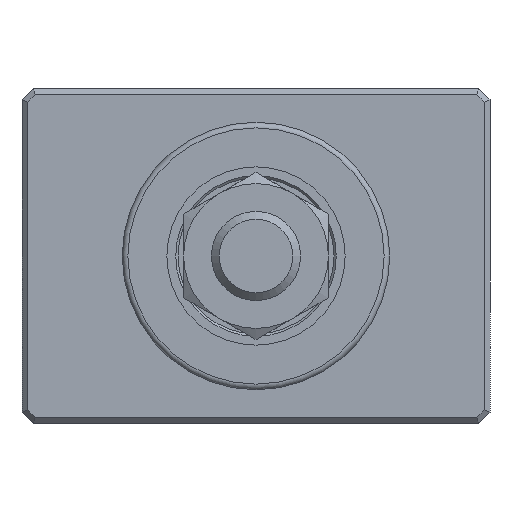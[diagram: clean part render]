
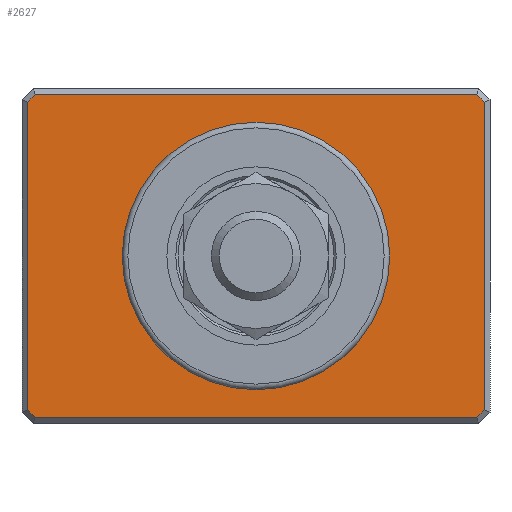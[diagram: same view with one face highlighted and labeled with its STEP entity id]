
A CAD part, front view. The second image highlights one B-rep face of the part: STEP entity #2627.
In plain terms, the highlighted planar face has unit normal (0, -1, 0).
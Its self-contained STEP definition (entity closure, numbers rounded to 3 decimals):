
#2351=CARTESIAN_POINT('',(19.793,-14.0,-14.5));
#2352=VERTEX_POINT('',#2351);
#2353=CARTESIAN_POINT('',(-19.793,-14.0,-14.5));
#2354=VERTEX_POINT('',#2353);
#2355=CARTESIAN_POINT('',(19.793,-14.0,-14.5));
#2356=DIRECTION('',(-1.0,0.0,0.0));
#2357=VECTOR('',#2356,39.586);
#2358=LINE('',#2355,#2357);
#2359=EDGE_CURVE('',#2352,#2354,#2358,.T.);
#2389=CARTESIAN_POINT('',(19.793,-14.0,14.5));
#2390=VERTEX_POINT('',#2389);
#2391=CARTESIAN_POINT('',(20.5,-14.0,13.793));
#2392=VERTEX_POINT('',#2391);
#2393=CARTESIAN_POINT('',(19.793,-14.0,14.5));
#2394=DIRECTION('',(0.707,0.0,-0.707));
#2395=VECTOR('',#2394,1.);
#2396=LINE('',#2393,#2395);
#2397=EDGE_CURVE('',#2390,#2392,#2396,.T.);
#2420=CARTESIAN_POINT('',(-20.5,-14.0,-13.793));
#2421=VERTEX_POINT('',#2420);
#2422=CARTESIAN_POINT('',(-19.793,-14.0,-14.5));
#2423=DIRECTION('',(-0.707,0.0,0.707));
#2424=VECTOR('',#2423,1.);
#2425=LINE('',#2422,#2424);
#2426=EDGE_CURVE('',#2354,#2421,#2425,.T.);
#2451=CARTESIAN_POINT('',(-19.793,-14.0,14.5));
#2452=VERTEX_POINT('',#2451);
#2453=CARTESIAN_POINT('',(-19.793,-14.0,14.5));
#2454=DIRECTION('',(1.0,0.0,0.0));
#2455=VECTOR('',#2454,39.586);
#2456=LINE('',#2453,#2455);
#2457=EDGE_CURVE('',#2452,#2390,#2456,.T.);
#2484=CARTESIAN_POINT('',(-20.5,-14.0,13.793));
#2485=VERTEX_POINT('',#2484);
#2486=CARTESIAN_POINT('',(-20.5,-14.0,-13.793));
#2487=DIRECTION('',(0.0,0.0,1.0));
#2488=VECTOR('',#2487,27.586);
#2489=LINE('',#2486,#2488);
#2490=EDGE_CURVE('',#2421,#2485,#2489,.T.);
#2506=CARTESIAN_POINT('',(-20.5,-14.0,13.793));
#2507=DIRECTION('',(0.707,0.0,0.707));
#2508=VECTOR('',#2507,1.);
#2509=LINE('',#2506,#2508);
#2510=EDGE_CURVE('',#2485,#2452,#2509,.T.);
#2530=CARTESIAN_POINT('',(20.5,-14.0,-13.793));
#2531=VERTEX_POINT('',#2530);
#2532=CARTESIAN_POINT('',(20.5,-14.0,13.793));
#2533=DIRECTION('',(0.0,0.0,-1.0));
#2534=VECTOR('',#2533,27.586);
#2535=LINE('',#2532,#2534);
#2536=EDGE_CURVE('',#2392,#2531,#2535,.T.);
#2552=CARTESIAN_POINT('',(20.5,-14.0,-13.793));
#2553=DIRECTION('',(-0.707,0.0,-0.707));
#2554=VECTOR('',#2553,1.);
#2555=LINE('',#2552,#2554);
#2556=EDGE_CURVE('',#2531,#2352,#2555,.T.);
#2601=CARTESIAN_POINT('',(0.0,-14.0,-15.));
#2602=DIRECTION('',(0.0,-1.0,0.0));
#2603=DIRECTION('',(0.0,0.0,-1.0));
#2604=AXIS2_PLACEMENT_3D('',#2601,#2602,#2603);
#2605=PLANE('',#2604);
#2606=ORIENTED_EDGE('',*,*,#2397,.F.);
#2607=ORIENTED_EDGE('',*,*,#2457,.F.);
#2608=ORIENTED_EDGE('',*,*,#2510,.F.);
#2609=ORIENTED_EDGE('',*,*,#2490,.F.);
#2610=ORIENTED_EDGE('',*,*,#2426,.F.);
#2611=ORIENTED_EDGE('',*,*,#2359,.F.);
#2612=ORIENTED_EDGE('',*,*,#2556,.F.);
#2613=ORIENTED_EDGE('',*,*,#2536,.F.);
#2614=EDGE_LOOP('',(#2606,#2607,#2608,#2609,#2610,#2611,#2612,#2613));
#2615=FACE_OUTER_BOUND('',#2614,.T.);
#2616=CARTESIAN_POINT('',(0.0,-14.0,12.));
#2617=VERTEX_POINT('',#2616);
#2618=CARTESIAN_POINT('',(0.0,-14.0,0.0));
#2619=DIRECTION('',(0.0,1.0,0.0));
#2620=DIRECTION('',(0.0,0.0,1.0));
#2621=AXIS2_PLACEMENT_3D('',#2618,#2619,#2620);
#2622=CIRCLE('',#2621,12.);
#2623=EDGE_CURVE('',#2617,#2617,#2622,.T.);
#2624=ORIENTED_EDGE('',*,*,#2623,.T.);
#2625=EDGE_LOOP('',(#2624));
#2626=FACE_BOUND('',#2625,.T.);
#2627=ADVANCED_FACE('',(#2615,#2626),#2605,.T.);
